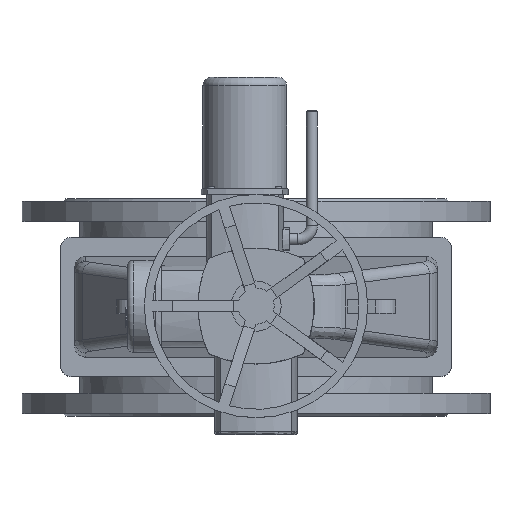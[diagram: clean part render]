
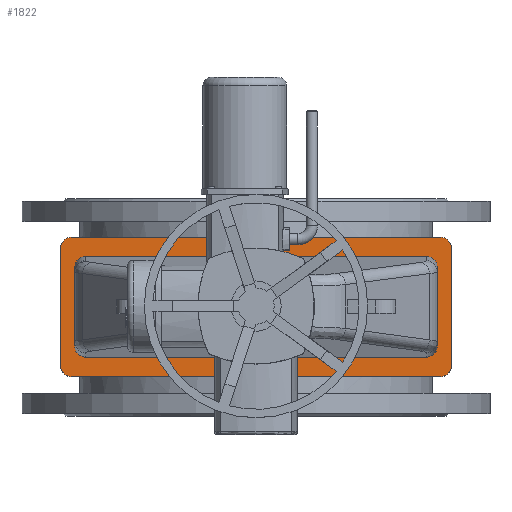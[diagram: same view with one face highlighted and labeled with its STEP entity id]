
A CAD part, top view. The second image highlights one B-rep face of the part: STEP entity #1822.
In plain terms, the highlighted planar face has unit normal (0, 0, 1).
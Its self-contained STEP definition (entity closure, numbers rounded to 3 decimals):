
#1822=ADVANCED_FACE('',(#7035,#7037),#7039,.T.);
#7035=FACE_BOUND('',#7036,.T.);
#7036=EDGE_LOOP('',(#10884,#10885,#10886,#10887,#10888,#10889,#10890,#10891));
#7037=FACE_BOUND('',#7038,.T.);
#7038=EDGE_LOOP('',(#10892,#10893,#10894,#10895,#10896,#10897,#10898,#10899));
#7039=PLANE('',#7040);
#7040=AXIS2_PLACEMENT_3D('',#7041,#7042,#7043);
#7041=CARTESIAN_POINT('',(0.,0.,666.));
#7042=DIRECTION('',(0.,-0.,1.));
#7043=DIRECTION('',(0.,1.,0.));
#10884=ORIENTED_EDGE('',*,*,#12236,.F.);
#10885=ORIENTED_EDGE('',*,*,#12249,.T.);
#10886=ORIENTED_EDGE('',*,*,#12248,.F.);
#10887=ORIENTED_EDGE('',*,*,#12246,.T.);
#10888=ORIENTED_EDGE('',*,*,#12244,.F.);
#10889=ORIENTED_EDGE('',*,*,#12242,.T.);
#10890=ORIENTED_EDGE('',*,*,#12240,.F.);
#10891=ORIENTED_EDGE('',*,*,#12237,.T.);
#10892=ORIENTED_EDGE('',*,*,#12250,.F.);
#10893=ORIENTED_EDGE('',*,*,#12251,.F.);
#10894=ORIENTED_EDGE('',*,*,#12252,.F.);
#10895=ORIENTED_EDGE('',*,*,#12253,.F.);
#10896=ORIENTED_EDGE('',*,*,#12254,.F.);
#10897=ORIENTED_EDGE('',*,*,#12255,.F.);
#10898=ORIENTED_EDGE('',*,*,#12256,.F.);
#10899=ORIENTED_EDGE('',*,*,#12257,.F.);
#12236=EDGE_CURVE('',#13454,#13452,#13456,.F.);
#12237=EDGE_CURVE('',#13457,#13452,#13458,.T.);
#12240=EDGE_CURVE('',#13457,#13460,#13462,.F.);
#12242=EDGE_CURVE('',#13463,#13460,#13465,.T.);
#12244=EDGE_CURVE('',#13463,#13466,#13468,.F.);
#12246=EDGE_CURVE('',#13469,#13466,#13471,.T.);
#12248=EDGE_CURVE('',#13469,#13472,#13474,.F.);
#12249=EDGE_CURVE('',#13454,#13472,#13475,.T.);
#12250=EDGE_CURVE('',#13476,#13477,#13478,.F.);
#12251=EDGE_CURVE('',#13479,#13476,#13480,.T.);
#12252=EDGE_CURVE('',#13481,#13479,#13482,.T.);
#12253=EDGE_CURVE('',#13483,#13481,#13484,.T.);
#12254=EDGE_CURVE('',#13485,#13483,#13486,.F.);
#12255=EDGE_CURVE('',#13487,#13485,#13488,.T.);
#12256=EDGE_CURVE('',#13489,#13487,#13490,.T.);
#12257=EDGE_CURVE('',#13477,#13489,#13491,.T.);
#13452=VERTEX_POINT('',#16568);
#13454=VERTEX_POINT('',#16572);
#13456=CIRCLE('',#16576,20.);
#13457=VERTEX_POINT('',#16580);
#13458=LINE('',#16581,#16582);
#13460=VERTEX_POINT('',#16587);
#13462=CIRCLE('',#16591,20.);
#13463=VERTEX_POINT('',#16595);
#13465=LINE('',#16599,#16600);
#13466=VERTEX_POINT('',#16602);
#13468=CIRCLE('',#16606,20.);
#13469=VERTEX_POINT('',#16610);
#13471=LINE('',#16614,#16615);
#13472=VERTEX_POINT('',#16617);
#13474=CIRCLE('',#16621,20.);
#13475=LINE('',#16625,#16626);
#13476=VERTEX_POINT('',#16628);
#13477=VERTEX_POINT('',#16629);
#13478=(BOUNDED_CURVE()B_SPLINE_CURVE(3,
(#16630,#16631,#16632,#16633),
.UNSPECIFIED.,.F.,.F.)B_SPLINE_CURVE_WITH_KNOTS((4,4),
(0.,1.),
.UNSPECIFIED.)CURVE()GEOMETRIC_REPRESENTATION_ITEM()RATIONAL_B_SPLINE_CURVE((1.,
0.805,0.805,1.))REPRESENTATION_ITEM(''));
#13479=VERTEX_POINT('',#16634);
#13480=LINE('',#16635,#16636);
#13481=VERTEX_POINT('',#16638);
#13482=(BOUNDED_CURVE()B_SPLINE_CURVE(3,
(#16639,#16640,#16641,#16642),
.UNSPECIFIED.,.F.,.F.)B_SPLINE_CURVE_WITH_KNOTS((4,4),
(0.,1.),
.UNSPECIFIED.)CURVE()GEOMETRIC_REPRESENTATION_ITEM()RATIONAL_B_SPLINE_CURVE((1.,
0.805,0.805,1.))REPRESENTATION_ITEM(''));
#13483=VERTEX_POINT('',#16643);
#13484=LINE('',#16644,#16645);
#13485=VERTEX_POINT('',#16647);
#13486=(BOUNDED_CURVE()B_SPLINE_CURVE(3,
(#16648,#16649,#16650,#16651),
.UNSPECIFIED.,.F.,.F.)B_SPLINE_CURVE_WITH_KNOTS((4,4),
(0.,1.),
.UNSPECIFIED.)CURVE()GEOMETRIC_REPRESENTATION_ITEM()RATIONAL_B_SPLINE_CURVE((1.,
0.805,0.805,1.))REPRESENTATION_ITEM(''));
#13487=VERTEX_POINT('',#16652);
#13488=LINE('',#16653,#16654);
#13489=VERTEX_POINT('',#16656);
#13490=(BOUNDED_CURVE()B_SPLINE_CURVE(3,
(#16657,#16658,#16659,#16660),
.UNSPECIFIED.,.F.,.F.)B_SPLINE_CURVE_WITH_KNOTS((4,4),
(0.,1.),
.UNSPECIFIED.)CURVE()GEOMETRIC_REPRESENTATION_ITEM()RATIONAL_B_SPLINE_CURVE((1.,
0.805,0.805,1.))REPRESENTATION_ITEM(''));
#13491=LINE('',#16661,#16662);
#16568=CARTESIAN_POINT('',(-350.,-105.,666.));
#16572=CARTESIAN_POINT('',(-330.,-125.,666.));
#16576=AXIS2_PLACEMENT_3D('',#16577,#16578,#16579);
#16577=CARTESIAN_POINT('',(-330.,-105.,666.));
#16578=DIRECTION('',(0.,-0.,1.));
#16579=DIRECTION('',(-1.,0.,0.));
#16580=CARTESIAN_POINT('',(-350.,105.,666.));
#16581=CARTESIAN_POINT('',(-350.,105.,666.));
#16582=VECTOR('',#16583,1.);
#16583=DIRECTION('',(0.,-1.,0.));
#16587=CARTESIAN_POINT('',(-330.,125.,666.));
#16591=AXIS2_PLACEMENT_3D('',#16592,#16593,#16594);
#16592=CARTESIAN_POINT('',(-330.,105.,666.));
#16593=DIRECTION('',(0.,-0.,1.));
#16594=DIRECTION('',(0.,1.,0.));
#16595=CARTESIAN_POINT('',(330.,125.,666.));
#16599=CARTESIAN_POINT('',(330.,125.,666.));
#16600=VECTOR('',#16601,1.);
#16601=DIRECTION('',(-1.,0.,0.));
#16602=CARTESIAN_POINT('',(350.,105.,666.));
#16606=AXIS2_PLACEMENT_3D('',#16607,#16608,#16609);
#16607=CARTESIAN_POINT('',(330.,105.,666.));
#16608=DIRECTION('',(0.,-0.,1.));
#16609=DIRECTION('',(1.,0.,0.));
#16610=CARTESIAN_POINT('',(350.,-105.,666.));
#16614=CARTESIAN_POINT('',(350.,-105.,666.));
#16615=VECTOR('',#16616,1.);
#16616=DIRECTION('',(0.,1.,0.));
#16617=CARTESIAN_POINT('',(330.,-125.,666.));
#16621=AXIS2_PLACEMENT_3D('',#16622,#16623,#16624);
#16622=CARTESIAN_POINT('',(330.,-105.,666.));
#16623=DIRECTION('',(0.,-0.,1.));
#16624=DIRECTION('',(0.,-1.,0.));
#16625=CARTESIAN_POINT('',(-330.,-125.,666.));
#16626=VECTOR('',#16627,1.);
#16627=DIRECTION('',(1.,0.,0.));
#16628=CARTESIAN_POINT('',(305.,-90.,666.));
#16629=CARTESIAN_POINT('',(325.,-69.924,666.));
#16630=CARTESIAN_POINT('',(325.,-69.924,666.));
#16631=CARTESIAN_POINT('',(325.,-81.684,666.));
#16632=CARTESIAN_POINT('',(316.716,-90.,666.));
#16633=CARTESIAN_POINT('',(305.,-90.,666.));
#16634=CARTESIAN_POINT('',(-305.,-90.,666.));
#16635=CARTESIAN_POINT('',(-305.,-90.,666.));
#16636=VECTOR('',#16637,1.);
#16637=DIRECTION('',(1.,0.,0.));
#16638=CARTESIAN_POINT('',(-325.,-69.924,666.));
#16639=CARTESIAN_POINT('',(-325.,-69.924,666.));
#16640=CARTESIAN_POINT('',(-325.,-81.684,666.));
#16641=CARTESIAN_POINT('',(-316.716,-90.,666.));
#16642=CARTESIAN_POINT('',(-305.,-90.,666.));
#16643=CARTESIAN_POINT('',(-325.,69.924,666.));
#16644=CARTESIAN_POINT('',(-325.,69.924,666.));
#16645=VECTOR('',#16646,1.);
#16646=DIRECTION('',(0.,-1.,0.));
#16647=CARTESIAN_POINT('',(-305.,90.,666.));
#16648=CARTESIAN_POINT('',(-325.,69.924,666.));
#16649=CARTESIAN_POINT('',(-325.,81.684,666.));
#16650=CARTESIAN_POINT('',(-316.716,90.,666.));
#16651=CARTESIAN_POINT('',(-305.,90.,666.));
#16652=CARTESIAN_POINT('',(305.,90.,666.));
#16653=CARTESIAN_POINT('',(305.,90.,666.));
#16654=VECTOR('',#16655,1.);
#16655=DIRECTION('',(-1.,0.,0.));
#16656=CARTESIAN_POINT('',(325.,69.924,666.));
#16657=CARTESIAN_POINT('',(325.,69.924,666.));
#16658=CARTESIAN_POINT('',(325.,81.684,666.));
#16659=CARTESIAN_POINT('',(316.716,90.,666.));
#16660=CARTESIAN_POINT('',(305.,90.,666.));
#16661=CARTESIAN_POINT('',(325.,-69.924,666.));
#16662=VECTOR('',#16663,1.);
#16663=DIRECTION('',(0.,1.,0.));
